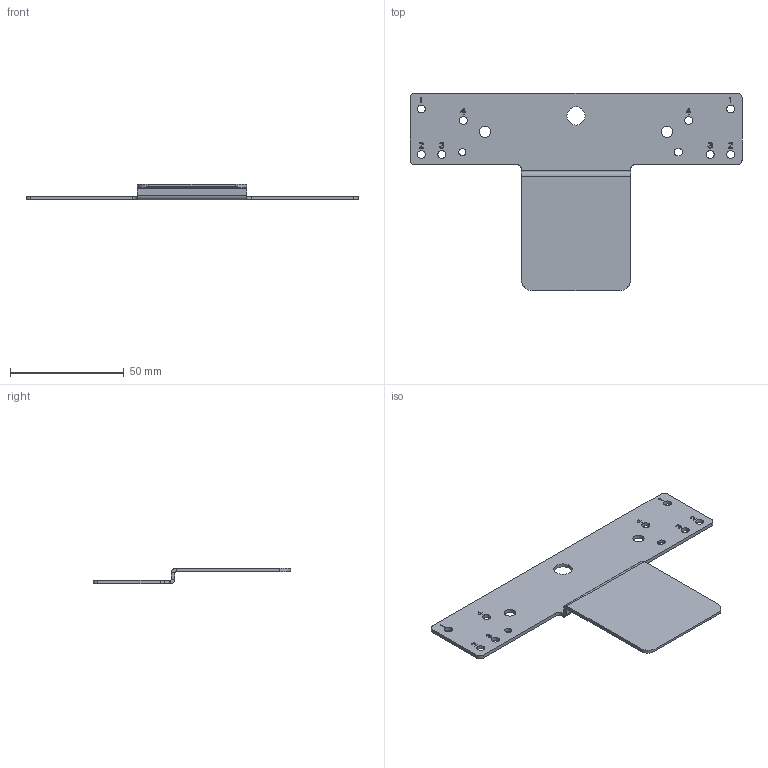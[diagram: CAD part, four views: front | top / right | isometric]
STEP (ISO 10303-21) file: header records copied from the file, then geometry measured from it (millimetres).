
FILE_DESCRIPTION((''),'2;1');
FILE_NAME('052_PLATE_R261V','2025-01-23T17:15:36',('0092109'),(''),'CREO PARAMETRIC BY PTC INC, 2022281','CREO PARAMETRIC BY PTC INC, 2022281','');
FILE_SCHEMA(('AUTOMOTIVE_DESIGN { 1 0 10303 214 1 1 1 1 }'));
Length unit declared in the file: millimetre
Products named in the file (1): 052_PLATE_R261V
Bounding box: 146 x 87 x 7 mm (x, y, z)
Volume: 11626.7 mm3; surface area: 15556.8 mm2
Topology: 1 solids, 1 shells, 285 faces, 803 edges, 530 vertices
Faces by surface type: plane 247, cylinder 38
Entity records: 9290 total; most frequent: CARTESIAN_POINT 1626, ORIENTED_EDGE 1606, DIRECTION 1447, EDGE_CURVE 803, VECTOR 725, LINE 725, VERTEX_POINT 530, AXIS2_PLACEMENT_3D 361
